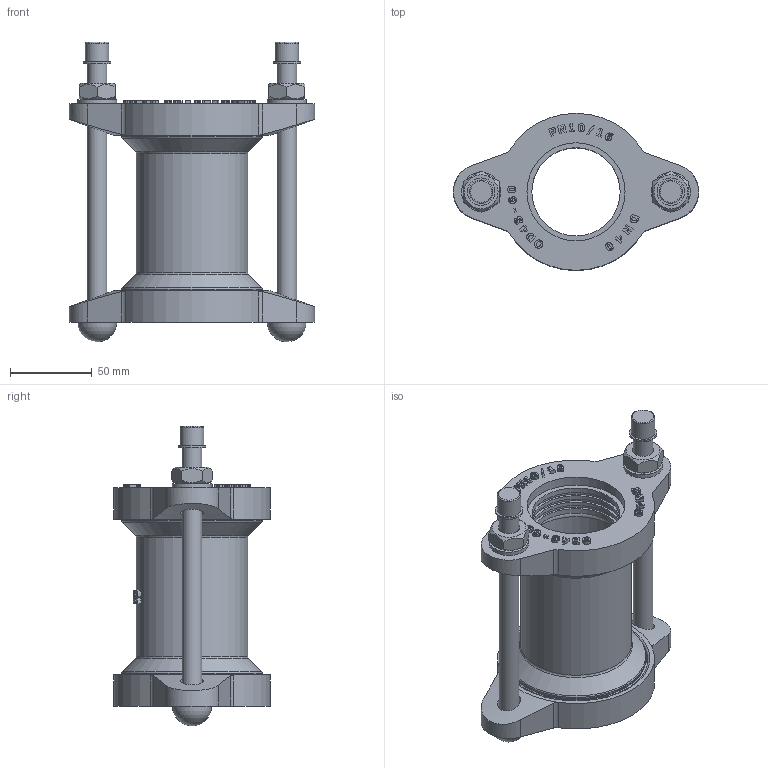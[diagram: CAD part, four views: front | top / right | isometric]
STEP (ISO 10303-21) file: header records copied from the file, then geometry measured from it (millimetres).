
FILE_DESCRIPTION(('STEP AP203'), '1');
FILE_NAME('Cîåäèíèòåëüíàÿ ìóôòà äëÿ æåñòêèõ òðóá', '', ('UNSPECIFIED'), ('UNSPECIFIED'), 'C3D Converter', 'C3D Toolkit', '');
FILE_SCHEMA(('CONFIG_CONTROL_DESIGN'));
Length unit declared in the file: millimetre
Assembly tree (13 placements, depth 2):
  (unnamed)
    (unnamed)
    (unnamed)  x2
    (unnamed)  x2
    (unnamed)  x2
    (unnamed)  x2
    (unnamed)
    (unnamed)
    (unnamed)  x2
Bounding box: 150 x 96 x 183.2 mm (x, y, z)
Volume: 380880.1 mm3; surface area: 153379.8 mm2
Topology: 17 solids, 17 shells, 630 faces, 1589 edges, 1046 vertices
Faces by surface type: extrusion 284, plane 233, cylinder 71, cone 20, torus 20, sphere 2
Full cylindrical faces by diameter (mm): 9.802 x1, 12 x6, 13 x2, 14 x4, 14.4 x2, 16.8 x2, 24 x2, 54 x8, 57 x6, 60 x3, 64 x2, 68 x3, 86 x2, 88 x4
Entity records: 25802 total; most frequent: CARTESIAN_POINT 8732, ORIENTED_EDGE 2878, DIRECTION 1843, EDGE_CURVE 1439, VERTEX_POINT 988, VECTOR 951, B_SPLINE_CURVE_WITH_KNOTS 891, EDGE_LOOP 715
